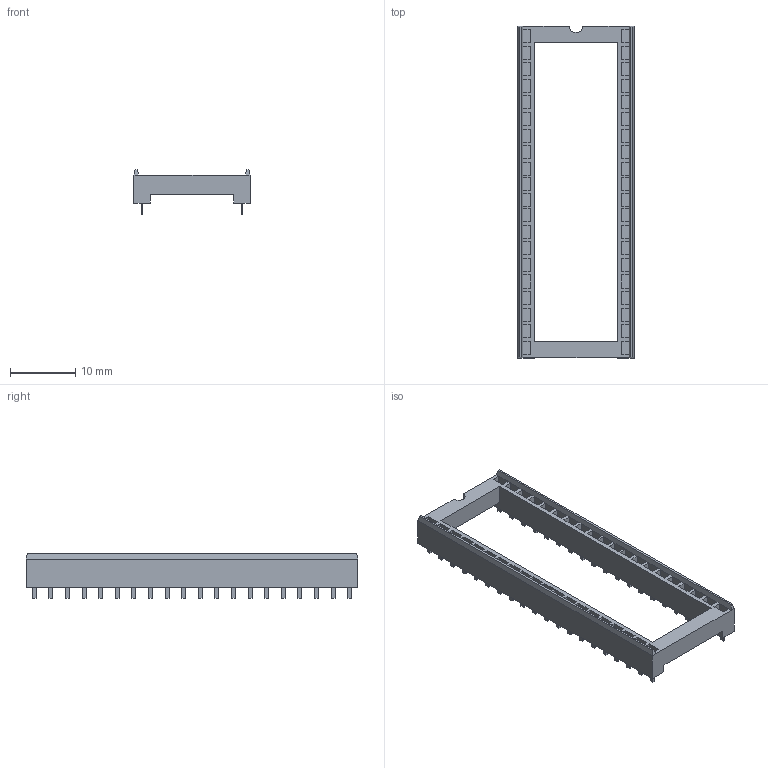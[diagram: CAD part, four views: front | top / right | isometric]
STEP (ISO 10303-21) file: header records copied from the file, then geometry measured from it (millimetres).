
FILE_DESCRIPTION(('STEP AP214'), '1');
FILE_NAME('Dip40w', '', ('UNSPECIFIED'), ('UNSPECIFIED'), 'ASCON STEP Converter 1.3', 'ASCON Math Kernel', '');
FILE_SCHEMA(('AUTOMOTIVE_DESIGN { 1 0 10303 214 3 1 1}'));
Length unit declared in the file: millimetre
Bounding box: 17.8 x 50.8 x 6.8 mm (x, y, z)
Volume: 1070 mm3; surface area: 2687.1 mm2
Topology: 1 solids, 1 shells, 425 faces, 1064 edges, 680 vertices
Faces by surface type: plane 424, cylinder 1
Entity records: 15744 total; most frequent: CARTESIAN_POINT 2170, ORIENTED_EDGE 2128, DIRECTION 1918, EDGE_CURVE 1064, LINE 1062, VECTOR 1062, VERTEX_POINT 680, FACE_BOUND 466
